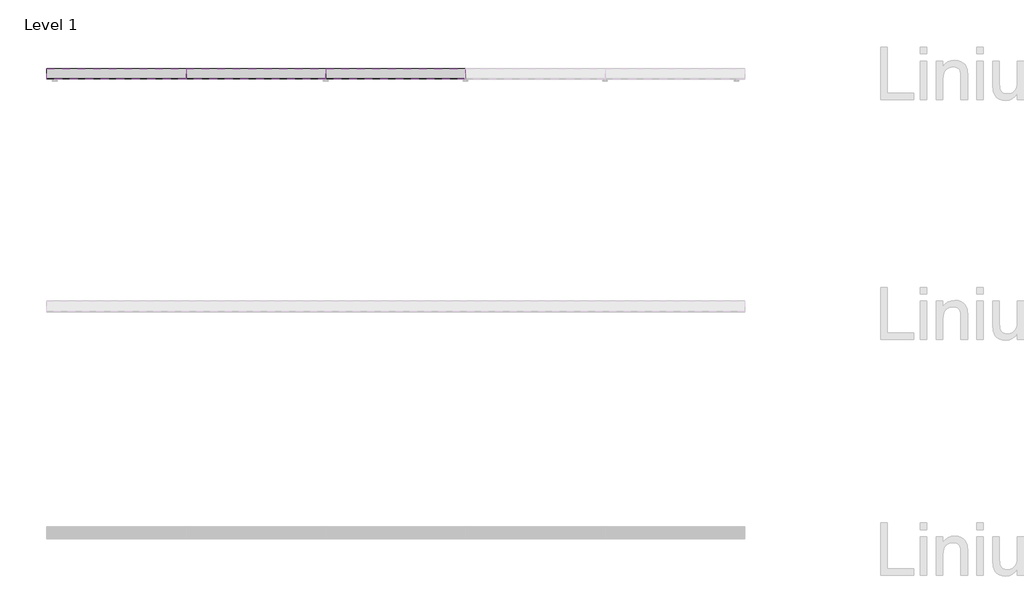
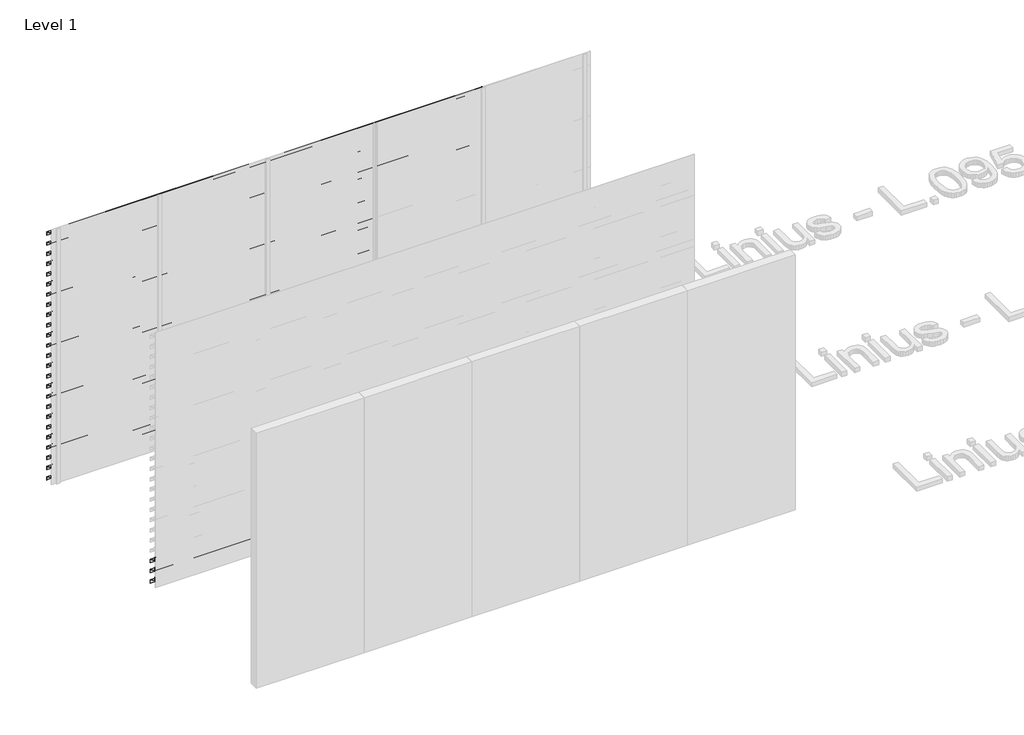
# One storey, part 27 of 46: 85 proxies.
"""IFC4 building model written with IfcOpenShell, lengths in millimetres."""

import ifcopenshell
import ifcopenshell.guid

model = None  # the IFC model being written
_history = None  # IfcOwnerHistory: only IFC2X3 demands one
_inside = {}  # id of a spatial element -> (the spatial element, [elements in it])
_under = {}  # id of a project, library or spatial element -> (it, [spatial elements below it])
_declared = {}  # id of a project -> (the project, [libraries it declares])
_typed = {}  # id of a type object -> (the type object, [elements of that type])
_made_of = {}  # id of a material, layer set ... -> (it, [elements and type objects made of it])


def new_model(schema):
    """Start an empty IFC model of exactly this schema.

    Asked for "IFC4X3", IfcOpenShell would pick the latest addendum, in which some entities
    have other attributes; the version numbers below select the first issue.
    IFC2X3 requires an IfcOwnerHistory on every rooted entity: one is made here for all.
    """
    global model, _history
    if schema == "IFC4X3":
        model = ifcopenshell.file(schema_version=(4, 3, 0, 0))
    else:
        model = ifcopenshell.file(schema=schema)
    _inside.clear()
    _under.clear()
    _declared.clear()
    _typed.clear()
    _made_of.clear()
    _history = None
    if model.schema == "IFC2X3":
        org = make("IfcOrganization", Name="unknown")
        user = make(
            "IfcPersonAndOrganization",
            ThePerson=make("IfcPerson", FamilyName="unknown"),
            TheOrganization=org,
        )
        app = make(
            "IfcApplication",
            ApplicationDeveloper=org,
            Version="unknown",
            ApplicationFullName="unknown",
            ApplicationIdentifier="unknown",
        )
        _history = make(
            "IfcOwnerHistory",
            OwningUser=user,
            OwningApplication=app,
            ChangeAction="ADDED",
            CreationDate=0,
        )
    return model


def make(cls, **values):
    """One entity of the class cls with the attributes given. An attribute that is None is left unset."""
    return model.create_entity(
        cls, **{name: value for name, value in values.items() if value is not None}
    )


def rooted(cls, **values):
    """An entity with a GlobalId (a new one), such as an element, a storey or a relation."""
    return make(cls, GlobalId=ifcopenshell.guid.new(), OwnerHistory=_history, **values)


def si_unit(unit_type, name, prefix=None):
    """IfcSIUnit, for example si_unit("LENGTHUNIT", "METRE", prefix="MILLI")."""
    return make("IfcSIUnit", UnitType=unit_type, Prefix=prefix, Name=name)


def assignment(units):
    """IfcUnitAssignment: the units of a project."""
    return None if units is None else make("IfcUnitAssignment", Units=units)


def point(xyz):
    """IfcCartesianPoint."""
    return None if xyz is None else make("IfcCartesianPoint", Coordinates=xyz)


def direction(xyz):
    """IfcDirection."""
    return None if xyz is None else make("IfcDirection", DirectionRatios=xyz)


def frame(location, z_axis=None, x_axis=None):
    """IfcAxis2Placement3D, a coordinate frame: its origin and axes. An axis left out is left unset."""
    return make(
        "IfcAxis2Placement3D",
        Location=point(location),
        Axis=direction(z_axis),
        RefDirection=direction(x_axis),
    )


def origin():
    """The frame at (0, 0, 0) with its axes left unset."""
    return frame((0.0, 0.0, 0.0))


def place(relative_to, where):
    """IfcLocalPlacement: puts the frame where relative to a parent placement (None: the world)."""
    return make(
        "IfcLocalPlacement", PlacementRelTo=relative_to, RelativePlacement=where
    )


def context(
    kind, dimensions, precision=None, world=None, true_north=None, identifier=None
):
    """IfcGeometricRepresentationContext, for example the 3D "Model" context."""
    return make(
        "IfcGeometricRepresentationContext",
        ContextIdentifier=identifier,
        ContextType=kind,
        CoordinateSpaceDimension=dimensions,
        Precision=precision,
        WorldCoordinateSystem=world,
        TrueNorth=true_north,
    )


def project(units=None, contexts=None):
    """IfcProject with its units and contexts."""
    return rooted(
        "IfcProject",
        Name="project",
        RepresentationContexts=contexts,
        UnitsInContext=assignment(units),
    )


def spatial(cls, under=None, at=None, **own):
    """A site, building, storey or space (cls), placed at a placement, below another one or the project."""
    s = rooted(cls, ObjectPlacement=at, **own)
    if under is not None:
        _under.setdefault(under.id(), (under, []))[1].append(s)
    return s


def polyline(points):
    """IfcPolyline through the points."""
    return make("IfcPolyline", Points=[point(p) for p in points])


def outline(outer, holes=None, kind="AREA"):
    """IfcArbitraryClosedProfileDef: a profile drawn as a closed curve; with holes, ...WithVoids."""
    if holes is None:
        return make("IfcArbitraryClosedProfileDef", ProfileType=kind, OuterCurve=outer)
    return make(
        "IfcArbitraryProfileDefWithVoids",
        ProfileType=kind,
        OuterCurve=outer,
        InnerCurves=holes,
    )


def extrude(swept, where, along, depth):
    """IfcExtrudedAreaSolid: the profile swept, set in the frame where, extruded along a direction by depth."""
    return make(
        "IfcExtrudedAreaSolid",
        SweptArea=swept,
        Position=where,
        ExtrudedDirection=direction(along),
        Depth=depth,
    )


def shape(context_of_items, identifier, shape_type, items):
    """IfcShapeRepresentation: the items that make up one representation, for example the "Body"."""
    return make(
        "IfcShapeRepresentation",
        ContextOfItems=context_of_items,
        RepresentationIdentifier=identifier,
        RepresentationType=shape_type,
        Items=items,
    )


def made_of(thing, what):
    """Note that an element or type object is made of a material, layer set ...; save() writes the relation."""
    if what is not None:
        _made_of.setdefault(what.id(), (what, []))[1].append(thing)
    return thing


def element(
    cls,
    number,
    at=None,
    inside=None,
    cuts=None,
    type_object=None,
    material=None,
    context=None,
    identifier="Body",
    shape_type=None,
    held_by="IfcProductDefinitionShape",
    body=None,
    shapes=None,
    **own,
):
    """One element of the class cls, such as IfcWall. Its Tag is "e" and its number.

    at: its placement. inside: the storey or other place that contains it. cuts: it is an
    opening in that element (IfcRelVoidsElement). A single representation is given by context,
    identifier, shape_type and body (its items); several are given by shapes. held_by: the class
    of the entity that holds the representations. save() writes the other relations.
    """
    e = rooted(cls, Tag="e%d" % number, ObjectPlacement=at, **own)
    if body is not None:
        shapes = [shape(context, identifier, shape_type, body)]
    if shapes is not None:
        e.Representation = make(held_by, Representations=shapes)
    if inside is not None:
        _inside.setdefault(inside.id(), (inside, []))[1].append(e)
    if cuts is not None:
        rooted(
            "IfcRelVoidsElement", RelatingBuildingElement=cuts, RelatedOpeningElement=e
        )
    if type_object is not None:
        _typed.setdefault(type_object.id(), (type_object, []))[1].append(e)
    return made_of(e, material)


def aggregate(whole, parts):
    """IfcRelAggregates: a whole, such as a stair, and the parts it consists of."""
    return rooted("IfcRelAggregates", RelatingObject=whole, RelatedObjects=parts)


def save(model, path):
    """Write the relations noted so far, then the file.

    IfcRelAggregates (storeys below a building ...), IfcRelContainedInSpatialStructure (elements
    in a storey), IfcRelDefinesByType, IfcRelAssociatesMaterial and IfcRelDeclares: one each for
    every whole, place, type object, material and project.
    """
    for whole, parts in _under.values():
        aggregate(whole, parts)
    for where, things in _inside.values():
        rooted(
            "IfcRelContainedInSpatialStructure",
            RelatedElements=things,
            RelatingStructure=where,
        )
    for kind, things in _typed.values():
        rooted("IfcRelDefinesByType", RelatedObjects=things, RelatingType=kind)
    for what, things in _made_of.values():
        rooted("IfcRelAssociatesMaterial", RelatedObjects=things, RelatingMaterial=what)
    for by, libraries in _declared.values():
        rooted("IfcRelDeclares", RelatingContext=by, RelatedDefinitions=libraries)
    model.write(path)


model = new_model("IFC4")

# Units and contexts
model_context = context("Model", 3, world=origin())
ifc_project = project(units=[si_unit("LENGTHUNIT", "METRE", prefix="MILLI")], contexts=[model_context])

# Site, building, storey
site = spatial("IfcSite", under=ifc_project)
building = spatial("IfcBuilding", under=site)
storey = spatial("IfcBuildingStorey", under=building, Name="Level 1", Elevation=0.0)

# Proxies
placement = place(None, origin())
element("IfcBuildingElementProxy", 1, Name="Wall Sweeps", at=placement, inside=storey, context=model_context, shape_type="SweptSolid", body=[
    extrude(outline(polyline([(44073.0540136, 2920.0), (44073.0540136, 2880.0), (44071.0540136, 2881.349017), (44071.0540136, 2918.7258595), (43983.0540136, 2959.7609334), (43983.0540136, 3000.0), (43985.0540136, 3000.0), (43985.0540136, 2961.0350739), (44073.0540136, 2920.0)])), frame((466.6208097, 0.0, 0.0), z_axis=(1.0, 0.0, 0.0), x_axis=(0.0, 1.0, 0.0)), (0.0, 0.0, 1.0), 1200.0000002),
])
element("IfcBuildingElementProxy", 2, Name="Wall Sweeps", at=placement, inside=storey, context=model_context, shape_type="SweptSolid", body=[
    extrude(outline(polyline([(44073.0540136, 2800.0), (44073.0540136, 2760.0), (44071.0540136, 2761.349017), (44071.0540136, 2798.7258595), (43983.0540136, 2839.7609334), (43983.0540136, 2880.0), (43985.0540136, 2880.0), (43985.0540136, 2841.0350739), (44073.0540136, 2800.0)])), frame((466.6208097, 0.0, 0.0), z_axis=(1.0, 0.0, 0.0), x_axis=(0.0, 1.0, 0.0)), (0.0, 0.0, 1.0), 1200.0000002),
])
element("IfcBuildingElementProxy", 3, Name="Wall Sweeps", at=placement, inside=storey, context=model_context, shape_type="SweptSolid", body=[
    extrude(outline(polyline([(44073.0540136, 2680.0), (44073.0540136, 2640.0), (44071.0540136, 2641.349017), (44071.0540136, 2678.7258595), (43983.0540136, 2719.7609334), (43983.0540136, 2760.0), (43985.0540136, 2760.0), (43985.0540136, 2721.0350739), (44073.0540136, 2680.0)])), frame((466.6208097, 0.0, 0.0), z_axis=(1.0, 0.0, 0.0), x_axis=(0.0, 1.0, 0.0)), (0.0, 0.0, 1.0), 1200.0000002),
])
element("IfcBuildingElementProxy", 4, Name="Wall Sweeps", at=placement, inside=storey, context=model_context, shape_type="SweptSolid", body=[
    extrude(outline(polyline([(44073.0540136, 2560.0), (44073.0540136, 2520.0), (44071.0540136, 2521.349017), (44071.0540136, 2558.7258595), (43983.0540136, 2599.7609334), (43983.0540136, 2640.0), (43985.0540136, 2640.0), (43985.0540136, 2601.0350739), (44073.0540136, 2560.0)])), frame((466.6208097, 0.0, 0.0), z_axis=(1.0, 0.0, 0.0), x_axis=(0.0, 1.0, 0.0)), (0.0, 0.0, 1.0), 1200.0000002),
])
element("IfcBuildingElementProxy", 5, Name="Wall Sweeps", at=placement, inside=storey, context=model_context, shape_type="SweptSolid", body=[
    extrude(outline(polyline([(44073.0540136, 2440.0), (44073.0540136, 2400.0), (44071.0540136, 2401.349017), (44071.0540136, 2438.7258595), (43983.0540136, 2479.7609334), (43983.0540136, 2520.0), (43985.0540136, 2520.0), (43985.0540136, 2481.0350739), (44073.0540136, 2440.0)])), frame((466.6208097, 0.0, 0.0), z_axis=(1.0, 0.0, 0.0), x_axis=(0.0, 1.0, 0.0)), (0.0, 0.0, 1.0), 1200.0000002),
])
element("IfcBuildingElementProxy", 6, Name="Wall Sweeps", at=placement, inside=storey, context=model_context, shape_type="SweptSolid", body=[
    extrude(outline(polyline([(44073.0540136, 2320.0), (44073.0540136, 2280.0), (44071.0540136, 2281.349017), (44071.0540136, 2318.7258595), (43983.0540136, 2359.7609334), (43983.0540136, 2400.0), (43985.0540136, 2400.0), (43985.0540136, 2361.0350739), (44073.0540136, 2320.0)])), frame((466.6208097, 0.0, 0.0), z_axis=(1.0, 0.0, 0.0), x_axis=(0.0, 1.0, 0.0)), (0.0, 0.0, 1.0), 1200.0000002),
])
element("IfcBuildingElementProxy", 7, Name="Wall Sweeps", at=placement, inside=storey, context=model_context, shape_type="SweptSolid", body=[
    extrude(outline(polyline([(44073.0540136, 2200.0), (44073.0540136, 2160.0), (44071.0540136, 2161.349017), (44071.0540136, 2198.7258595), (43983.0540136, 2239.7609334), (43983.0540136, 2280.0), (43985.0540136, 2280.0), (43985.0540136, 2241.0350739), (44073.0540136, 2200.0)])), frame((466.6208097, 0.0, 0.0), z_axis=(1.0, 0.0, 0.0), x_axis=(0.0, 1.0, 0.0)), (0.0, 0.0, 1.0), 1200.0000002),
])
element("IfcBuildingElementProxy", 8, Name="Wall Sweeps", at=placement, inside=storey, context=model_context, shape_type="SweptSolid", body=[
    extrude(outline(polyline([(44073.0540136, 2080.0), (44073.0540136, 2040.0), (44071.0540136, 2041.349017), (44071.0540136, 2078.7258595), (43983.0540136, 2119.7609334), (43983.0540136, 2160.0), (43985.0540136, 2160.0), (43985.0540136, 2121.0350739), (44073.0540136, 2080.0)])), frame((466.6208097, 0.0, 0.0), z_axis=(1.0, 0.0, 0.0), x_axis=(0.0, 1.0, 0.0)), (0.0, 0.0, 1.0), 1200.0000002),
])
element("IfcBuildingElementProxy", 9, Name="Wall Sweeps", at=placement, inside=storey, context=model_context, shape_type="SweptSolid", body=[
    extrude(outline(polyline([(44073.0540136, 1960.0), (44073.0540136, 1920.0), (44071.0540136, 1921.349017), (44071.0540136, 1958.7258595), (43983.0540136, 1999.7609334), (43983.0540136, 2040.0), (43985.0540136, 2040.0), (43985.0540136, 2001.0350739), (44073.0540136, 1960.0)])), frame((466.6208097, 0.0, 0.0), z_axis=(1.0, 0.0, 0.0), x_axis=(0.0, 1.0, 0.0)), (0.0, 0.0, 1.0), 1200.0000002),
])
element("IfcBuildingElementProxy", 10, Name="Wall Sweeps", at=placement, inside=storey, context=model_context, shape_type="SweptSolid", body=[
    extrude(outline(polyline([(44073.0540136, 1840.0), (44073.0540136, 1800.0), (44071.0540136, 1801.349017), (44071.0540136, 1838.7258595), (43983.0540136, 1879.7609334), (43983.0540136, 1920.0), (43985.0540136, 1920.0), (43985.0540136, 1881.0350739), (44073.0540136, 1840.0)])), frame((466.6208097, 0.0, 0.0), z_axis=(1.0, 0.0, 0.0), x_axis=(0.0, 1.0, 0.0)), (0.0, 0.0, 1.0), 1200.0000002),
])
element("IfcBuildingElementProxy", 11, Name="Wall Sweeps", at=placement, inside=storey, context=model_context, shape_type="SweptSolid", body=[
    extrude(outline(polyline([(44073.0540136, 1720.0), (44073.0540136, 1680.0), (44071.0540136, 1681.349017), (44071.0540136, 1718.7258595), (43983.0540136, 1759.7609334), (43983.0540136, 1800.0), (43985.0540136, 1800.0), (43985.0540136, 1761.0350739), (44073.0540136, 1720.0)])), frame((466.6208097, 0.0, 0.0), z_axis=(1.0, 0.0, 0.0), x_axis=(0.0, 1.0, 0.0)), (0.0, 0.0, 1.0), 1200.0000002),
])
element("IfcBuildingElementProxy", 12, Name="Wall Sweeps", at=placement, inside=storey, context=model_context, shape_type="SweptSolid", body=[
    extrude(outline(polyline([(44073.0540136, 1600.0), (44073.0540136, 1560.0), (44071.0540136, 1561.349017), (44071.0540136, 1598.7258595), (43983.0540136, 1639.7609334), (43983.0540136, 1680.0), (43985.0540136, 1680.0), (43985.0540136, 1641.0350739), (44073.0540136, 1600.0)])), frame((466.6208097, 0.0, 0.0), z_axis=(1.0, 0.0, 0.0), x_axis=(0.0, 1.0, 0.0)), (0.0, 0.0, 1.0), 1200.0000002),
])
element("IfcBuildingElementProxy", 13, Name="Wall Sweeps", at=placement, inside=storey, context=model_context, shape_type="SweptSolid", body=[
    extrude(outline(polyline([(44073.0540136, 1480.0), (44073.0540136, 1440.0), (44071.0540136, 1441.349017), (44071.0540136, 1478.7258595), (43983.0540136, 1519.7609334), (43983.0540136, 1560.0), (43985.0540136, 1560.0), (43985.0540136, 1521.0350739), (44073.0540136, 1480.0)])), frame((466.6208097, 0.0, 0.0), z_axis=(1.0, 0.0, 0.0), x_axis=(0.0, 1.0, 0.0)), (0.0, 0.0, 1.0), 1200.0000002),
])
element("IfcBuildingElementProxy", 14, Name="Wall Sweeps", at=placement, inside=storey, context=model_context, shape_type="SweptSolid", body=[
    extrude(outline(polyline([(44073.0540136, 1360.0), (44073.0540136, 1320.0), (44071.0540136, 1321.349017), (44071.0540136, 1358.7258595), (43983.0540136, 1399.7609334), (43983.0540136, 1440.0), (43985.0540136, 1440.0), (43985.0540136, 1401.0350739), (44073.0540136, 1360.0)])), frame((466.6208097, 0.0, 0.0), z_axis=(1.0, 0.0, 0.0), x_axis=(0.0, 1.0, 0.0)), (0.0, 0.0, 1.0), 1200.0000002),
])
element("IfcBuildingElementProxy", 15, Name="Wall Sweeps", at=placement, inside=storey, context=model_context, shape_type="SweptSolid", body=[
    extrude(outline(polyline([(44073.0540136, 1240.0), (44073.0540136, 1200.0), (44071.0540136, 1201.349017), (44071.0540136, 1238.7258595), (43983.0540136, 1279.7609334), (43983.0540136, 1320.0), (43985.0540136, 1320.0), (43985.0540136, 1281.0350739), (44073.0540136, 1240.0)])), frame((466.6208097, 0.0, 0.0), z_axis=(1.0, 0.0, 0.0), x_axis=(0.0, 1.0, 0.0)), (0.0, 0.0, 1.0), 1200.0000002),
])
element("IfcBuildingElementProxy", 16, Name="Wall Sweeps", at=placement, inside=storey, context=model_context, shape_type="SweptSolid", body=[
    extrude(outline(polyline([(44073.0540136, 1120.0), (44073.0540136, 1080.0), (44071.0540136, 1081.349017), (44071.0540136, 1118.7258595), (43983.0540136, 1159.7609334), (43983.0540136, 1200.0), (43985.0540136, 1200.0), (43985.0540136, 1161.0350739), (44073.0540136, 1120.0)])), frame((466.6208097, 0.0, 0.0), z_axis=(1.0, 0.0, 0.0), x_axis=(0.0, 1.0, 0.0)), (0.0, 0.0, 1.0), 1200.0000002),
])
element("IfcBuildingElementProxy", 17, Name="Wall Sweeps", at=placement, inside=storey, context=model_context, shape_type="SweptSolid", body=[
    extrude(outline(polyline([(44073.0540136, 1000.0), (44073.0540136, 960.0), (44071.0540136, 961.349017), (44071.0540136, 998.7258595), (43983.0540136, 1039.7609334), (43983.0540136, 1080.0), (43985.0540136, 1080.0), (43985.0540136, 1041.0350739), (44073.0540136, 1000.0)])), frame((466.6208097, 0.0, 0.0), z_axis=(1.0, 0.0, 0.0), x_axis=(0.0, 1.0, 0.0)), (0.0, 0.0, 1.0), 1200.0000002),
])
element("IfcBuildingElementProxy", 18, Name="Wall Sweeps", at=placement, inside=storey, context=model_context, shape_type="SweptSolid", body=[
    extrude(outline(polyline([(44073.0540136, 880.0), (44073.0540136, 840.0), (44071.0540136, 841.349017), (44071.0540136, 878.7258595), (43983.0540136, 919.7609334), (43983.0540136, 960.0), (43985.0540136, 960.0), (43985.0540136, 921.0350739), (44073.0540136, 880.0)])), frame((466.6208097, 0.0, 0.0), z_axis=(1.0, 0.0, 0.0), x_axis=(0.0, 1.0, 0.0)), (0.0, 0.0, 1.0), 1200.0000002),
])
element("IfcBuildingElementProxy", 19, Name="Wall Sweeps", at=placement, inside=storey, context=model_context, shape_type="SweptSolid", body=[
    extrude(outline(polyline([(44073.0540136, 760.0), (44073.0540136, 720.0), (44071.0540136, 721.349017), (44071.0540136, 758.7258595), (43983.0540136, 799.7609334), (43983.0540136, 840.0), (43985.0540136, 840.0), (43985.0540136, 801.0350739), (44073.0540136, 760.0)])), frame((466.6208097, 0.0, 0.0), z_axis=(1.0, 0.0, 0.0), x_axis=(0.0, 1.0, 0.0)), (0.0, 0.0, 1.0), 1200.0000002),
])
element("IfcBuildingElementProxy", 20, Name="Wall Sweeps", at=placement, inside=storey, context=model_context, shape_type="SweptSolid", body=[
    extrude(outline(polyline([(44073.0540136, 640.0), (44073.0540136, 600.0), (44071.0540136, 601.349017), (44071.0540136, 638.7258595), (43983.0540136, 679.7609334), (43983.0540136, 720.0), (43985.0540136, 720.0), (43985.0540136, 681.0350739), (44073.0540136, 640.0)])), frame((466.6208097, 0.0, 0.0), z_axis=(1.0, 0.0, 0.0), x_axis=(0.0, 1.0, 0.0)), (0.0, 0.0, 1.0), 1200.0000002),
])
element("IfcBuildingElementProxy", 21, Name="Wall Sweeps", at=placement, inside=storey, context=model_context, shape_type="SweptSolid", body=[
    extrude(outline(polyline([(44073.0540136, 520.0), (44073.0540136, 480.0), (44071.0540136, 481.349017), (44071.0540136, 518.7258595), (43983.0540136, 559.7609334), (43983.0540136, 600.0), (43985.0540136, 600.0), (43985.0540136, 561.0350739), (44073.0540136, 520.0)])), frame((466.6208097, 0.0, 0.0), z_axis=(1.0, 0.0, 0.0), x_axis=(0.0, 1.0, 0.0)), (0.0, 0.0, 1.0), 1200.0000002),
])
element("IfcBuildingElementProxy", 22, Name="Wall Sweeps", at=placement, inside=storey, context=model_context, shape_type="SweptSolid", body=[
    extrude(outline(polyline([(44073.0540136, 400.0), (44073.0540136, 360.0), (44071.0540136, 361.349017), (44071.0540136, 398.7258595), (43983.0540136, 439.7609334), (43983.0540136, 480.0), (43985.0540136, 480.0), (43985.0540136, 441.0350739), (44073.0540136, 400.0)])), frame((466.6208097, 0.0, 0.0), z_axis=(1.0, 0.0, 0.0), x_axis=(0.0, 1.0, 0.0)), (0.0, 0.0, 1.0), 1200.0000002),
])
element("IfcBuildingElementProxy", 23, Name="Wall Sweeps", at=placement, inside=storey, context=model_context, shape_type="SweptSolid", body=[
    extrude(outline(polyline([(44073.0540136, 280.0), (44073.0540136, 240.0), (44071.0540136, 241.349017), (44071.0540136, 278.7258595), (43983.0540136, 319.7609334), (43983.0540136, 360.0), (43985.0540136, 360.0), (43985.0540136, 321.0350739), (44073.0540136, 280.0)])), frame((466.6208097, 0.0, 0.0), z_axis=(1.0, 0.0, 0.0), x_axis=(0.0, 1.0, 0.0)), (0.0, 0.0, 1.0), 1200.0000002),
])
element("IfcBuildingElementProxy", 24, Name="Wall Sweeps", at=placement, inside=storey, context=model_context, shape_type="SweptSolid", body=[
    extrude(outline(polyline([(44073.0540136, 160.0), (44073.0540136, 120.0), (44071.0540136, 121.349017), (44071.0540136, 158.7258595), (43983.0540136, 199.7609334), (43983.0540136, 240.0), (43985.0540136, 240.0), (43985.0540136, 201.0350739), (44073.0540136, 160.0)])), frame((466.6208097, 0.0, 0.0), z_axis=(1.0, 0.0, 0.0), x_axis=(0.0, 1.0, 0.0)), (0.0, 0.0, 1.0), 1200.0000002),
])
element("IfcBuildingElementProxy", 25, Name="Wall Sweeps", at=placement, inside=storey, context=model_context, shape_type="SweptSolid", body=[
    extrude(outline(polyline([(44073.0540136, 40.0), (44073.0540136, 0.0), (44071.0540136, 1.349017), (44071.0540136, 38.7258595), (43983.0540136, 79.7609334), (43983.0540136, 120.0), (43985.0540136, 120.0), (43985.0540136, 81.0350739), (44073.0540136, 40.0)])), frame((466.6208097, 0.0, 0.0), z_axis=(1.0, 0.0, 0.0), x_axis=(0.0, 1.0, 0.0)), (0.0, 0.0, 1.0), 1200.0000002),
])
element("IfcBuildingElementProxy", 26, Name="Wall Sweeps", at=placement, inside=storey, context=model_context, shape_type="SweptSolid", body=[
    extrude(outline(polyline([(44073.0540136, 2920.0), (44073.0540136, 2880.0), (44071.0540136, 2881.349017), (44071.0540136, 2918.7258595), (43983.0540136, 2959.7609334), (43983.0540136, 3000.0), (43985.0540136, 3000.0), (43985.0540136, 2961.0350739), (44073.0540136, 2920.0)])), frame((1666.6208099, 0.0, 0.0), z_axis=(1.0, 0.0, 0.0), x_axis=(0.0, 1.0, 0.0)), (0.0, 0.0, 1.0), 1199.9999999),
])
element("IfcBuildingElementProxy", 27, Name="Wall Sweeps", at=placement, inside=storey, context=model_context, shape_type="SweptSolid", body=[
    extrude(outline(polyline([(44073.0540136, 2800.0), (44073.0540136, 2760.0), (44071.0540136, 2761.349017), (44071.0540136, 2798.7258595), (43983.0540136, 2839.7609334), (43983.0540136, 2880.0), (43985.0540136, 2880.0), (43985.0540136, 2841.0350739), (44073.0540136, 2800.0)])), frame((1666.6208099, 0.0, 0.0), z_axis=(1.0, 0.0, 0.0), x_axis=(0.0, 1.0, 0.0)), (0.0, 0.0, 1.0), 1199.9999999),
])
element("IfcBuildingElementProxy", 28, Name="Wall Sweeps", at=placement, inside=storey, context=model_context, shape_type="SweptSolid", body=[
    extrude(outline(polyline([(44073.0540136, 2680.0), (44073.0540136, 2640.0), (44071.0540136, 2641.349017), (44071.0540136, 2678.7258595), (43983.0540136, 2719.7609334), (43983.0540136, 2760.0), (43985.0540136, 2760.0), (43985.0540136, 2721.0350739), (44073.0540136, 2680.0)])), frame((1666.6208099, 0.0, 0.0), z_axis=(1.0, 0.0, 0.0), x_axis=(0.0, 1.0, 0.0)), (0.0, 0.0, 1.0), 1199.9999999),
])
element("IfcBuildingElementProxy", 29, Name="Wall Sweeps", at=placement, inside=storey, context=model_context, shape_type="SweptSolid", body=[
    extrude(outline(polyline([(44073.0540136, 2560.0), (44073.0540136, 2520.0), (44071.0540136, 2521.349017), (44071.0540136, 2558.7258595), (43983.0540136, 2599.7609334), (43983.0540136, 2640.0), (43985.0540136, 2640.0), (43985.0540136, 2601.0350739), (44073.0540136, 2560.0)])), frame((1666.6208099, 0.0, 0.0), z_axis=(1.0, 0.0, 0.0), x_axis=(0.0, 1.0, 0.0)), (0.0, 0.0, 1.0), 1199.9999999),
])
element("IfcBuildingElementProxy", 30, Name="Wall Sweeps", at=placement, inside=storey, context=model_context, shape_type="SweptSolid", body=[
    extrude(outline(polyline([(44073.0540136, 2440.0), (44073.0540136, 2400.0), (44071.0540136, 2401.349017), (44071.0540136, 2438.7258595), (43983.0540136, 2479.7609334), (43983.0540136, 2520.0), (43985.0540136, 2520.0), (43985.0540136, 2481.0350739), (44073.0540136, 2440.0)])), frame((1666.6208099, 0.0, 0.0), z_axis=(1.0, 0.0, 0.0), x_axis=(0.0, 1.0, 0.0)), (0.0, 0.0, 1.0), 1199.9999999),
])
element("IfcBuildingElementProxy", 31, Name="Wall Sweeps", at=placement, inside=storey, context=model_context, shape_type="SweptSolid", body=[
    extrude(outline(polyline([(44073.0540136, 2320.0), (44073.0540136, 2280.0), (44071.0540136, 2281.349017), (44071.0540136, 2318.7258595), (43983.0540136, 2359.7609334), (43983.0540136, 2400.0), (43985.0540136, 2400.0), (43985.0540136, 2361.0350739), (44073.0540136, 2320.0)])), frame((1666.6208099, 0.0, 0.0), z_axis=(1.0, 0.0, 0.0), x_axis=(0.0, 1.0, 0.0)), (0.0, 0.0, 1.0), 1199.9999999),
])
element("IfcBuildingElementProxy", 32, Name="Wall Sweeps", at=placement, inside=storey, context=model_context, shape_type="SweptSolid", body=[
    extrude(outline(polyline([(44073.0540136, 2200.0), (44073.0540136, 2160.0), (44071.0540136, 2161.349017), (44071.0540136, 2198.7258595), (43983.0540136, 2239.7609334), (43983.0540136, 2280.0), (43985.0540136, 2280.0), (43985.0540136, 2241.0350739), (44073.0540136, 2200.0)])), frame((1666.6208099, 0.0, 0.0), z_axis=(1.0, 0.0, 0.0), x_axis=(0.0, 1.0, 0.0)), (0.0, 0.0, 1.0), 1199.9999999),
])
element("IfcBuildingElementProxy", 33, Name="Wall Sweeps", at=placement, inside=storey, context=model_context, shape_type="SweptSolid", body=[
    extrude(outline(polyline([(44073.0540136, 2080.0), (44073.0540136, 2040.0), (44071.0540136, 2041.349017), (44071.0540136, 2078.7258595), (43983.0540136, 2119.7609334), (43983.0540136, 2160.0), (43985.0540136, 2160.0), (43985.0540136, 2121.0350739), (44073.0540136, 2080.0)])), frame((1666.6208099, 0.0, 0.0), z_axis=(1.0, 0.0, 0.0), x_axis=(0.0, 1.0, 0.0)), (0.0, 0.0, 1.0), 1199.9999999),
])
element("IfcBuildingElementProxy", 34, Name="Wall Sweeps", at=placement, inside=storey, context=model_context, shape_type="SweptSolid", body=[
    extrude(outline(polyline([(44073.0540136, 1960.0), (44073.0540136, 1920.0), (44071.0540136, 1921.349017), (44071.0540136, 1958.7258595), (43983.0540136, 1999.7609334), (43983.0540136, 2040.0), (43985.0540136, 2040.0), (43985.0540136, 2001.0350739), (44073.0540136, 1960.0)])), frame((1666.6208099, 0.0, 0.0), z_axis=(1.0, 0.0, 0.0), x_axis=(0.0, 1.0, 0.0)), (0.0, 0.0, 1.0), 1199.9999999),
])
element("IfcBuildingElementProxy", 35, Name="Wall Sweeps", at=placement, inside=storey, context=model_context, shape_type="SweptSolid", body=[
    extrude(outline(polyline([(44073.0540136, 1840.0), (44073.0540136, 1800.0), (44071.0540136, 1801.349017), (44071.0540136, 1838.7258595), (43983.0540136, 1879.7609334), (43983.0540136, 1920.0), (43985.0540136, 1920.0), (43985.0540136, 1881.0350739), (44073.0540136, 1840.0)])), frame((1666.6208099, 0.0, 0.0), z_axis=(1.0, 0.0, 0.0), x_axis=(0.0, 1.0, 0.0)), (0.0, 0.0, 1.0), 1199.9999999),
])
element("IfcBuildingElementProxy", 36, Name="Wall Sweeps", at=placement, inside=storey, context=model_context, shape_type="SweptSolid", body=[
    extrude(outline(polyline([(44073.0540136, 1720.0), (44073.0540136, 1680.0), (44071.0540136, 1681.349017), (44071.0540136, 1718.7258595), (43983.0540136, 1759.7609334), (43983.0540136, 1800.0), (43985.0540136, 1800.0), (43985.0540136, 1761.0350739), (44073.0540136, 1720.0)])), frame((1666.6208099, 0.0, 0.0), z_axis=(1.0, 0.0, 0.0), x_axis=(0.0, 1.0, 0.0)), (0.0, 0.0, 1.0), 1199.9999999),
])
element("IfcBuildingElementProxy", 37, Name="Wall Sweeps", at=placement, inside=storey, context=model_context, shape_type="SweptSolid", body=[
    extrude(outline(polyline([(44073.0540136, 1600.0), (44073.0540136, 1560.0), (44071.0540136, 1561.349017), (44071.0540136, 1598.7258595), (43983.0540136, 1639.7609334), (43983.0540136, 1680.0), (43985.0540136, 1680.0), (43985.0540136, 1641.0350739), (44073.0540136, 1600.0)])), frame((1666.6208099, 0.0, 0.0), z_axis=(1.0, 0.0, 0.0), x_axis=(0.0, 1.0, 0.0)), (0.0, 0.0, 1.0), 1199.9999999),
])
element("IfcBuildingElementProxy", 38, Name="Wall Sweeps", at=placement, inside=storey, context=model_context, shape_type="SweptSolid", body=[
    extrude(outline(polyline([(44073.0540136, 1480.0), (44073.0540136, 1440.0), (44071.0540136, 1441.349017), (44071.0540136, 1478.7258595), (43983.0540136, 1519.7609334), (43983.0540136, 1560.0), (43985.0540136, 1560.0), (43985.0540136, 1521.0350739), (44073.0540136, 1480.0)])), frame((1666.6208099, 0.0, 0.0), z_axis=(1.0, 0.0, 0.0), x_axis=(0.0, 1.0, 0.0)), (0.0, 0.0, 1.0), 1199.9999999),
])
element("IfcBuildingElementProxy", 39, Name="Wall Sweeps", at=placement, inside=storey, context=model_context, shape_type="SweptSolid", body=[
    extrude(outline(polyline([(44073.0540136, 1360.0), (44073.0540136, 1320.0), (44071.0540136, 1321.349017), (44071.0540136, 1358.7258595), (43983.0540136, 1399.7609334), (43983.0540136, 1440.0), (43985.0540136, 1440.0), (43985.0540136, 1401.0350739), (44073.0540136, 1360.0)])), frame((1666.6208099, 0.0, 0.0), z_axis=(1.0, 0.0, 0.0), x_axis=(0.0, 1.0, 0.0)), (0.0, 0.0, 1.0), 1199.9999999),
])
element("IfcBuildingElementProxy", 40, Name="Wall Sweeps", at=placement, inside=storey, context=model_context, shape_type="SweptSolid", body=[
    extrude(outline(polyline([(44073.0540136, 1240.0), (44073.0540136, 1200.0), (44071.0540136, 1201.349017), (44071.0540136, 1238.7258595), (43983.0540136, 1279.7609334), (43983.0540136, 1320.0), (43985.0540136, 1320.0), (43985.0540136, 1281.0350739), (44073.0540136, 1240.0)])), frame((1666.6208099, 0.0, 0.0), z_axis=(1.0, 0.0, 0.0), x_axis=(0.0, 1.0, 0.0)), (0.0, 0.0, 1.0), 1199.9999999),
])
element("IfcBuildingElementProxy", 41, Name="Wall Sweeps", at=placement, inside=storey, context=model_context, shape_type="SweptSolid", body=[
    extrude(outline(polyline([(44073.0540136, 1120.0), (44073.0540136, 1080.0), (44071.0540136, 1081.349017), (44071.0540136, 1118.7258595), (43983.0540136, 1159.7609334), (43983.0540136, 1200.0), (43985.0540136, 1200.0), (43985.0540136, 1161.0350739), (44073.0540136, 1120.0)])), frame((1666.6208099, 0.0, 0.0), z_axis=(1.0, 0.0, 0.0), x_axis=(0.0, 1.0, 0.0)), (0.0, 0.0, 1.0), 1199.9999999),
])
element("IfcBuildingElementProxy", 42, Name="Wall Sweeps", at=placement, inside=storey, context=model_context, shape_type="SweptSolid", body=[
    extrude(outline(polyline([(44073.0540136, 1000.0), (44073.0540136, 960.0), (44071.0540136, 961.349017), (44071.0540136, 998.7258595), (43983.0540136, 1039.7609334), (43983.0540136, 1080.0), (43985.0540136, 1080.0), (43985.0540136, 1041.0350739), (44073.0540136, 1000.0)])), frame((1666.6208099, 0.0, 0.0), z_axis=(1.0, 0.0, 0.0), x_axis=(0.0, 1.0, 0.0)), (0.0, 0.0, 1.0), 1199.9999999),
])
element("IfcBuildingElementProxy", 43, Name="Wall Sweeps", at=placement, inside=storey, context=model_context, shape_type="SweptSolid", body=[
    extrude(outline(polyline([(44073.0540136, 880.0), (44073.0540136, 840.0), (44071.0540136, 841.349017), (44071.0540136, 878.7258595), (43983.0540136, 919.7609334), (43983.0540136, 960.0), (43985.0540136, 960.0), (43985.0540136, 921.0350739), (44073.0540136, 880.0)])), frame((1666.6208099, 0.0, 0.0), z_axis=(1.0, 0.0, 0.0), x_axis=(0.0, 1.0, 0.0)), (0.0, 0.0, 1.0), 1199.9999999),
])
element("IfcBuildingElementProxy", 44, Name="Wall Sweeps", at=placement, inside=storey, context=model_context, shape_type="SweptSolid", body=[
    extrude(outline(polyline([(44073.0540136, 760.0), (44073.0540136, 720.0), (44071.0540136, 721.349017), (44071.0540136, 758.7258595), (43983.0540136, 799.7609334), (43983.0540136, 840.0), (43985.0540136, 840.0), (43985.0540136, 801.0350739), (44073.0540136, 760.0)])), frame((1666.6208099, 0.0, 0.0), z_axis=(1.0, 0.0, 0.0), x_axis=(0.0, 1.0, 0.0)), (0.0, 0.0, 1.0), 1199.9999999),
])
element("IfcBuildingElementProxy", 45, Name="Wall Sweeps", at=placement, inside=storey, context=model_context, shape_type="SweptSolid", body=[
    extrude(outline(polyline([(44073.0540136, 640.0), (44073.0540136, 600.0), (44071.0540136, 601.349017), (44071.0540136, 638.7258595), (43983.0540136, 679.7609334), (43983.0540136, 720.0), (43985.0540136, 720.0), (43985.0540136, 681.0350739), (44073.0540136, 640.0)])), frame((1666.6208099, 0.0, 0.0), z_axis=(1.0, 0.0, 0.0), x_axis=(0.0, 1.0, 0.0)), (0.0, 0.0, 1.0), 1199.9999999),
])
element("IfcBuildingElementProxy", 46, Name="Wall Sweeps", at=placement, inside=storey, context=model_context, shape_type="SweptSolid", body=[
    extrude(outline(polyline([(44073.0540136, 520.0), (44073.0540136, 480.0), (44071.0540136, 481.349017), (44071.0540136, 518.7258595), (43983.0540136, 559.7609334), (43983.0540136, 600.0), (43985.0540136, 600.0), (43985.0540136, 561.0350739), (44073.0540136, 520.0)])), frame((1666.6208099, 0.0, 0.0), z_axis=(1.0, 0.0, 0.0), x_axis=(0.0, 1.0, 0.0)), (0.0, 0.0, 1.0), 1199.9999999),
])
element("IfcBuildingElementProxy", 47, Name="Wall Sweeps", at=placement, inside=storey, context=model_context, shape_type="SweptSolid", body=[
    extrude(outline(polyline([(44073.0540136, 400.0), (44073.0540136, 360.0), (44071.0540136, 361.349017), (44071.0540136, 398.7258595), (43983.0540136, 439.7609334), (43983.0540136, 480.0), (43985.0540136, 480.0), (43985.0540136, 441.0350739), (44073.0540136, 400.0)])), frame((1666.6208099, 0.0, 0.0), z_axis=(1.0, 0.0, 0.0), x_axis=(0.0, 1.0, 0.0)), (0.0, 0.0, 1.0), 1199.9999999),
])
element("IfcBuildingElementProxy", 48, Name="Wall Sweeps", at=placement, inside=storey, context=model_context, shape_type="SweptSolid", body=[
    extrude(outline(polyline([(44073.0540136, 280.0), (44073.0540136, 240.0), (44071.0540136, 241.349017), (44071.0540136, 278.7258595), (43983.0540136, 319.7609334), (43983.0540136, 360.0), (43985.0540136, 360.0), (43985.0540136, 321.0350739), (44073.0540136, 280.0)])), frame((1666.6208099, 0.0, 0.0), z_axis=(1.0, 0.0, 0.0), x_axis=(0.0, 1.0, 0.0)), (0.0, 0.0, 1.0), 1199.9999999),
])
element("IfcBuildingElementProxy", 49, Name="Wall Sweeps", at=placement, inside=storey, context=model_context, shape_type="SweptSolid", body=[
    extrude(outline(polyline([(44073.0540136, 160.0), (44073.0540136, 120.0), (44071.0540136, 121.349017), (44071.0540136, 158.7258595), (43983.0540136, 199.7609334), (43983.0540136, 240.0), (43985.0540136, 240.0), (43985.0540136, 201.0350739), (44073.0540136, 160.0)])), frame((1666.6208099, 0.0, 0.0), z_axis=(1.0, 0.0, 0.0), x_axis=(0.0, 1.0, 0.0)), (0.0, 0.0, 1.0), 1199.9999999),
])
element("IfcBuildingElementProxy", 50, Name="Wall Sweeps", at=placement, inside=storey, context=model_context, shape_type="SweptSolid", body=[
    extrude(outline(polyline([(44073.0540136, 40.0), (44073.0540136, 0.0), (44071.0540136, 1.349017), (44071.0540136, 38.7258595), (43983.0540136, 79.7609334), (43983.0540136, 120.0), (43985.0540136, 120.0), (43985.0540136, 81.0350739), (44073.0540136, 40.0)])), frame((1666.6208099, 0.0, 0.0), z_axis=(1.0, 0.0, 0.0), x_axis=(0.0, 1.0, 0.0)), (0.0, 0.0, 1.0), 1199.9999999),
])
element("IfcBuildingElementProxy", 51, Name="Wall Sweeps", at=placement, inside=storey, context=model_context, shape_type="SweptSolid", body=[
    extrude(outline(polyline([(42073.0540136, 280.0), (42073.0540136, 240.0), (42071.0540136, 241.349017), (42071.0540136, 278.7258595), (41983.0540136, 319.7609334), (41983.0540136, 360.0), (41985.0540136, 360.0), (41985.0540136, 321.0350739), (42073.0540136, 280.0)])), frame((466.6208097, 0.0, 0.0), z_axis=(1.0, 0.0, 0.0), x_axis=(0.0, 1.0, 0.0)), (0.0, 0.0, 1.0), 6000.0),
])
element("IfcBuildingElementProxy", 52, Name="Wall Sweeps", at=placement, inside=storey, context=model_context, shape_type="SweptSolid", body=[
    extrude(outline(polyline([(42073.0540136, 160.0), (42073.0540136, 120.0), (42071.0540136, 121.349017), (42071.0540136, 158.7258595), (41983.0540136, 199.7609334), (41983.0540136, 240.0), (41985.0540136, 240.0), (41985.0540136, 201.0350739), (42073.0540136, 160.0)])), frame((466.6208097, 0.0, 0.0), z_axis=(1.0, 0.0, 0.0), x_axis=(0.0, 1.0, 0.0)), (0.0, 0.0, 1.0), 6000.0),
])
element("IfcBuildingElementProxy", 53, Name="Wall Sweeps", at=placement, inside=storey, context=model_context, shape_type="SweptSolid", body=[
    extrude(outline(polyline([(42073.0540136, 40.0), (42073.0540136, 0.0), (42071.0540136, 1.349017), (42071.0540136, 38.7258595), (41983.0540136, 79.7609334), (41983.0540136, 120.0), (41985.0540136, 120.0), (41985.0540136, 81.0350739), (42073.0540136, 40.0)])), frame((466.6208097, 0.0, 0.0), z_axis=(1.0, 0.0, 0.0), x_axis=(0.0, 1.0, 0.0)), (0.0, 0.0, 1.0), 6000.0),
])
element("IfcBuildingElementProxy", 54, Name="Wall Sweeps", at=placement, inside=storey, context=model_context, shape_type="SweptSolid", body=[
    extrude(outline(polyline([(44073.0540136, 2920.0), (44073.0540136, 2880.0), (44071.0540136, 2881.349017), (44071.0540136, 2918.7258595), (43983.0540136, 2959.7609334), (43983.0540136, 3000.0), (43985.0540136, 3000.0), (43985.0540136, 2961.0350739), (44073.0540136, 2920.0)])), frame((2866.6208097, 0.0, 0.0), z_axis=(1.0, 0.0, 0.0), x_axis=(0.0, 1.0, 0.0)), (0.0, 0.0, 1.0), 1199.9999999),
])
element("IfcBuildingElementProxy", 55, Name="Wall Sweeps", at=placement, inside=storey, context=model_context, shape_type="SweptSolid", body=[
    extrude(outline(polyline([(44073.0540136, 2800.0), (44073.0540136, 2760.0), (44071.0540136, 2761.349017), (44071.0540136, 2798.7258595), (43983.0540136, 2839.7609334), (43983.0540136, 2880.0), (43985.0540136, 2880.0), (43985.0540136, 2841.0350739), (44073.0540136, 2800.0)])), frame((2866.6208097, 0.0, 0.0), z_axis=(1.0, 0.0, 0.0), x_axis=(0.0, 1.0, 0.0)), (0.0, 0.0, 1.0), 1199.9999999),
])
element("IfcBuildingElementProxy", 56, Name="Wall Sweeps", at=placement, inside=storey, context=model_context, shape_type="SweptSolid", body=[
    extrude(outline(polyline([(44073.0540136, 2680.0), (44073.0540136, 2640.0), (44071.0540136, 2641.349017), (44071.0540136, 2678.7258595), (43983.0540136, 2719.7609334), (43983.0540136, 2760.0), (43985.0540136, 2760.0), (43985.0540136, 2721.0350739), (44073.0540136, 2680.0)])), frame((2866.6208097, 0.0, 0.0), z_axis=(1.0, 0.0, 0.0), x_axis=(0.0, 1.0, 0.0)), (0.0, 0.0, 1.0), 1199.9999999),
])
element("IfcBuildingElementProxy", 57, Name="Wall Sweeps", at=placement, inside=storey, context=model_context, shape_type="SweptSolid", body=[
    extrude(outline(polyline([(44073.0540136, 2560.0), (44073.0540136, 2520.0), (44071.0540136, 2521.349017), (44071.0540136, 2558.7258595), (43983.0540136, 2599.7609334), (43983.0540136, 2640.0), (43985.0540136, 2640.0), (43985.0540136, 2601.0350739), (44073.0540136, 2560.0)])), frame((2866.6208097, 0.0, 0.0), z_axis=(1.0, 0.0, 0.0), x_axis=(0.0, 1.0, 0.0)), (0.0, 0.0, 1.0), 1199.9999999),
])
element("IfcBuildingElementProxy", 58, Name="Wall Sweeps", at=placement, inside=storey, context=model_context, shape_type="SweptSolid", body=[
    extrude(outline(polyline([(44073.0540136, 2440.0), (44073.0540136, 2400.0), (44071.0540136, 2401.349017), (44071.0540136, 2438.7258595), (43983.0540136, 2479.7609334), (43983.0540136, 2520.0), (43985.0540136, 2520.0), (43985.0540136, 2481.0350739), (44073.0540136, 2440.0)])), frame((2866.6208097, 0.0, 0.0), z_axis=(1.0, 0.0, 0.0), x_axis=(0.0, 1.0, 0.0)), (0.0, 0.0, 1.0), 1199.9999999),
])
element("IfcBuildingElementProxy", 59, Name="Wall Sweeps", at=placement, inside=storey, context=model_context, shape_type="SweptSolid", body=[
    extrude(outline(polyline([(44073.0540136, 2320.0), (44073.0540136, 2280.0), (44071.0540136, 2281.349017), (44071.0540136, 2318.7258595), (43983.0540136, 2359.7609334), (43983.0540136, 2400.0), (43985.0540136, 2400.0), (43985.0540136, 2361.0350739), (44073.0540136, 2320.0)])), frame((2866.6208097, 0.0, 0.0), z_axis=(1.0, 0.0, 0.0), x_axis=(0.0, 1.0, 0.0)), (0.0, 0.0, 1.0), 1199.9999999),
])
element("IfcBuildingElementProxy", 60, Name="Wall Sweeps", at=placement, inside=storey, context=model_context, shape_type="SweptSolid", body=[
    extrude(outline(polyline([(44073.0540136, 2200.0), (44073.0540136, 2160.0), (44071.0540136, 2161.349017), (44071.0540136, 2198.7258595), (43983.0540136, 2239.7609334), (43983.0540136, 2280.0), (43985.0540136, 2280.0), (43985.0540136, 2241.0350739), (44073.0540136, 2200.0)])), frame((2866.6208097, 0.0, 0.0), z_axis=(1.0, 0.0, 0.0), x_axis=(0.0, 1.0, 0.0)), (0.0, 0.0, 1.0), 1199.9999999),
])
element("IfcBuildingElementProxy", 61, Name="Wall Sweeps", at=placement, inside=storey, context=model_context, shape_type="SweptSolid", body=[
    extrude(outline(polyline([(44073.0540136, 2080.0), (44073.0540136, 2040.0), (44071.0540136, 2041.349017), (44071.0540136, 2078.7258595), (43983.0540136, 2119.7609334), (43983.0540136, 2160.0), (43985.0540136, 2160.0), (43985.0540136, 2121.0350739), (44073.0540136, 2080.0)])), frame((2866.6208097, 0.0, 0.0), z_axis=(1.0, 0.0, 0.0), x_axis=(0.0, 1.0, 0.0)), (0.0, 0.0, 1.0), 1199.9999999),
])
element("IfcBuildingElementProxy", 62, Name="Wall Sweeps", at=placement, inside=storey, context=model_context, shape_type="SweptSolid", body=[
    extrude(outline(polyline([(44073.0540136, 1960.0), (44073.0540136, 1920.0), (44071.0540136, 1921.349017), (44071.0540136, 1958.7258595), (43983.0540136, 1999.7609334), (43983.0540136, 2040.0), (43985.0540136, 2040.0), (43985.0540136, 2001.0350739), (44073.0540136, 1960.0)])), frame((2866.6208097, 0.0, 0.0), z_axis=(1.0, 0.0, 0.0), x_axis=(0.0, 1.0, 0.0)), (0.0, 0.0, 1.0), 1199.9999999),
])
element("IfcBuildingElementProxy", 63, Name="Wall Sweeps", at=placement, inside=storey, context=model_context, shape_type="SweptSolid", body=[
    extrude(outline(polyline([(44073.0540136, 1840.0), (44073.0540136, 1800.0), (44071.0540136, 1801.349017), (44071.0540136, 1838.7258595), (43983.0540136, 1879.7609334), (43983.0540136, 1920.0), (43985.0540136, 1920.0), (43985.0540136, 1881.0350739), (44073.0540136, 1840.0)])), frame((2866.6208097, 0.0, 0.0), z_axis=(1.0, 0.0, 0.0), x_axis=(0.0, 1.0, 0.0)), (0.0, 0.0, 1.0), 1199.9999999),
])
element("IfcBuildingElementProxy", 64, Name="Wall Sweeps", at=placement, inside=storey, context=model_context, shape_type="SweptSolid", body=[
    extrude(outline(polyline([(44073.0540136, 1720.0), (44073.0540136, 1680.0), (44071.0540136, 1681.349017), (44071.0540136, 1718.7258595), (43983.0540136, 1759.7609334), (43983.0540136, 1800.0), (43985.0540136, 1800.0), (43985.0540136, 1761.0350739), (44073.0540136, 1720.0)])), frame((2866.6208097, 0.0, 0.0), z_axis=(1.0, 0.0, 0.0), x_axis=(0.0, 1.0, 0.0)), (0.0, 0.0, 1.0), 1199.9999999),
])
element("IfcBuildingElementProxy", 65, Name="Wall Sweeps", at=placement, inside=storey, context=model_context, shape_type="SweptSolid", body=[
    extrude(outline(polyline([(44073.0540136, 1600.0), (44073.0540136, 1560.0), (44071.0540136, 1561.349017), (44071.0540136, 1598.7258595), (43983.0540136, 1639.7609334), (43983.0540136, 1680.0), (43985.0540136, 1680.0), (43985.0540136, 1641.0350739), (44073.0540136, 1600.0)])), frame((2866.6208097, 0.0, 0.0), z_axis=(1.0, 0.0, 0.0), x_axis=(0.0, 1.0, 0.0)), (0.0, 0.0, 1.0), 1199.9999999),
])
element("IfcBuildingElementProxy", 66, Name="Wall Sweeps", at=placement, inside=storey, context=model_context, shape_type="SweptSolid", body=[
    extrude(outline(polyline([(44073.0540136, 1480.0), (44073.0540136, 1440.0), (44071.0540136, 1441.349017), (44071.0540136, 1478.7258595), (43983.0540136, 1519.7609334), (43983.0540136, 1560.0), (43985.0540136, 1560.0), (43985.0540136, 1521.0350739), (44073.0540136, 1480.0)])), frame((2866.6208097, 0.0, 0.0), z_axis=(1.0, 0.0, 0.0), x_axis=(0.0, 1.0, 0.0)), (0.0, 0.0, 1.0), 1199.9999999),
])
element("IfcBuildingElementProxy", 67, Name="Wall Sweeps", at=placement, inside=storey, context=model_context, shape_type="SweptSolid", body=[
    extrude(outline(polyline([(44073.0540136, 1360.0), (44073.0540136, 1320.0), (44071.0540136, 1321.349017), (44071.0540136, 1358.7258595), (43983.0540136, 1399.7609334), (43983.0540136, 1440.0), (43985.0540136, 1440.0), (43985.0540136, 1401.0350739), (44073.0540136, 1360.0)])), frame((2866.6208097, 0.0, 0.0), z_axis=(1.0, 0.0, 0.0), x_axis=(0.0, 1.0, 0.0)), (0.0, 0.0, 1.0), 1199.9999999),
])
element("IfcBuildingElementProxy", 68, Name="Wall Sweeps", at=placement, inside=storey, context=model_context, shape_type="SweptSolid", body=[
    extrude(outline(polyline([(44073.0540136, 1240.0), (44073.0540136, 1200.0), (44071.0540136, 1201.349017), (44071.0540136, 1238.7258595), (43983.0540136, 1279.7609334), (43983.0540136, 1320.0), (43985.0540136, 1320.0), (43985.0540136, 1281.0350739), (44073.0540136, 1240.0)])), frame((2866.6208097, 0.0, 0.0), z_axis=(1.0, 0.0, 0.0), x_axis=(0.0, 1.0, 0.0)), (0.0, 0.0, 1.0), 1199.9999999),
])
element("IfcBuildingElementProxy", 69, Name="Wall Sweeps", at=placement, inside=storey, context=model_context, shape_type="SweptSolid", body=[
    extrude(outline(polyline([(44073.0540136, 1120.0), (44073.0540136, 1080.0), (44071.0540136, 1081.349017), (44071.0540136, 1118.7258595), (43983.0540136, 1159.7609334), (43983.0540136, 1200.0), (43985.0540136, 1200.0), (43985.0540136, 1161.0350739), (44073.0540136, 1120.0)])), frame((2866.6208097, 0.0, 0.0), z_axis=(1.0, 0.0, 0.0), x_axis=(0.0, 1.0, 0.0)), (0.0, 0.0, 1.0), 1199.9999999),
])
element("IfcBuildingElementProxy", 70, Name="Wall Sweeps", at=placement, inside=storey, context=model_context, shape_type="SweptSolid", body=[
    extrude(outline(polyline([(44073.0540136, 1000.0), (44073.0540136, 960.0), (44071.0540136, 961.349017), (44071.0540136, 998.7258595), (43983.0540136, 1039.7609334), (43983.0540136, 1080.0), (43985.0540136, 1080.0), (43985.0540136, 1041.0350739), (44073.0540136, 1000.0)])), frame((2866.6208097, 0.0, 0.0), z_axis=(1.0, 0.0, 0.0), x_axis=(0.0, 1.0, 0.0)), (0.0, 0.0, 1.0), 1199.9999999),
])
element("IfcBuildingElementProxy", 71, Name="Wall Sweeps", at=placement, inside=storey, context=model_context, shape_type="SweptSolid", body=[
    extrude(outline(polyline([(44073.0540136, 880.0), (44073.0540136, 840.0), (44071.0540136, 841.349017), (44071.0540136, 878.7258595), (43983.0540136, 919.7609334), (43983.0540136, 960.0), (43985.0540136, 960.0), (43985.0540136, 921.0350739), (44073.0540136, 880.0)])), frame((2866.6208097, 0.0, 0.0), z_axis=(1.0, 0.0, 0.0), x_axis=(0.0, 1.0, 0.0)), (0.0, 0.0, 1.0), 1199.9999999),
])
element("IfcBuildingElementProxy", 72, Name="Wall Sweeps", at=placement, inside=storey, context=model_context, shape_type="SweptSolid", body=[
    extrude(outline(polyline([(44073.0540136, 760.0), (44073.0540136, 720.0), (44071.0540136, 721.349017), (44071.0540136, 758.7258595), (43983.0540136, 799.7609334), (43983.0540136, 840.0), (43985.0540136, 840.0), (43985.0540136, 801.0350739), (44073.0540136, 760.0)])), frame((2866.6208097, 0.0, 0.0), z_axis=(1.0, 0.0, 0.0), x_axis=(0.0, 1.0, 0.0)), (0.0, 0.0, 1.0), 1199.9999999),
])
element("IfcBuildingElementProxy", 73, Name="Wall Sweeps", at=placement, inside=storey, context=model_context, shape_type="SweptSolid", body=[
    extrude(outline(polyline([(44073.0540136, 640.0), (44073.0540136, 600.0), (44071.0540136, 601.349017), (44071.0540136, 638.7258595), (43983.0540136, 679.7609334), (43983.0540136, 720.0), (43985.0540136, 720.0), (43985.0540136, 681.0350739), (44073.0540136, 640.0)])), frame((2866.6208097, 0.0, 0.0), z_axis=(1.0, 0.0, 0.0), x_axis=(0.0, 1.0, 0.0)), (0.0, 0.0, 1.0), 1199.9999999),
])
element("IfcBuildingElementProxy", 74, Name="Wall Sweeps", at=placement, inside=storey, context=model_context, shape_type="SweptSolid", body=[
    extrude(outline(polyline([(44073.0540136, 520.0), (44073.0540136, 480.0), (44071.0540136, 481.349017), (44071.0540136, 518.7258595), (43983.0540136, 559.7609334), (43983.0540136, 600.0), (43985.0540136, 600.0), (43985.0540136, 561.0350739), (44073.0540136, 520.0)])), frame((2866.6208097, 0.0, 0.0), z_axis=(1.0, 0.0, 0.0), x_axis=(0.0, 1.0, 0.0)), (0.0, 0.0, 1.0), 1199.9999999),
])
element("IfcBuildingElementProxy", 75, Name="Wall Sweeps", at=placement, inside=storey, context=model_context, shape_type="SweptSolid", body=[
    extrude(outline(polyline([(44073.0540136, 400.0), (44073.0540136, 360.0), (44071.0540136, 361.349017), (44071.0540136, 398.7258595), (43983.0540136, 439.7609334), (43983.0540136, 480.0), (43985.0540136, 480.0), (43985.0540136, 441.0350739), (44073.0540136, 400.0)])), frame((2866.6208097, 0.0, 0.0), z_axis=(1.0, 0.0, 0.0), x_axis=(0.0, 1.0, 0.0)), (0.0, 0.0, 1.0), 1199.9999999),
])
element("IfcBuildingElementProxy", 76, Name="Wall Sweeps", at=placement, inside=storey, context=model_context, shape_type="SweptSolid", body=[
    extrude(outline(polyline([(44073.0540136, 280.0), (44073.0540136, 240.0), (44071.0540136, 241.349017), (44071.0540136, 278.7258595), (43983.0540136, 319.7609334), (43983.0540136, 360.0), (43985.0540136, 360.0), (43985.0540136, 321.0350739), (44073.0540136, 280.0)])), frame((2866.6208097, 0.0, 0.0), z_axis=(1.0, 0.0, 0.0), x_axis=(0.0, 1.0, 0.0)), (0.0, 0.0, 1.0), 1199.9999999),
])
element("IfcBuildingElementProxy", 77, Name="Wall Sweeps", at=placement, inside=storey, context=model_context, shape_type="SweptSolid", body=[
    extrude(outline(polyline([(44073.0540136, 160.0), (44073.0540136, 120.0), (44071.0540136, 121.349017), (44071.0540136, 158.7258595), (43983.0540136, 199.7609334), (43983.0540136, 240.0), (43985.0540136, 240.0), (43985.0540136, 201.0350739), (44073.0540136, 160.0)])), frame((2866.6208097, 0.0, 0.0), z_axis=(1.0, 0.0, 0.0), x_axis=(0.0, 1.0, 0.0)), (0.0, 0.0, 1.0), 1199.9999999),
])
element("IfcBuildingElementProxy", 78, Name="Wall Sweeps", at=placement, inside=storey, context=model_context, shape_type="SweptSolid", body=[
    extrude(outline(polyline([(44073.0540136, 40.0), (44073.0540136, 0.0), (44071.0540136, 1.349017), (44071.0540136, 38.7258595), (43983.0540136, 79.7609334), (43983.0540136, 120.0), (43985.0540136, 120.0), (43985.0540136, 81.0350739), (44073.0540136, 40.0)])), frame((2866.6208097, 0.0, 0.0), z_axis=(1.0, 0.0, 0.0), x_axis=(0.0, 1.0, 0.0)), (0.0, 0.0, 1.0), 1199.9999999),
])
element("IfcBuildingElementProxy", 79, Name="Wall Sweeps", at=placement, inside=storey, context=model_context, shape_type="SweptSolid", body=[
    extrude(outline(polyline([(44073.0540136, 2920.0), (44073.0540136, 2880.0), (44071.0540136, 2881.349017), (44071.0540136, 2918.7258595), (43983.0540136, 2959.7609334), (43983.0540136, 3000.0), (43985.0540136, 3000.0), (43985.0540136, 2961.0350739), (44073.0540136, 2920.0)])), frame((4066.6208096, 0.0, 0.0), z_axis=(1.0, 0.0, 0.0), x_axis=(0.0, 1.0, 0.0)), (0.0, 0.0, 1.0), 1199.9999999),
])
element("IfcBuildingElementProxy", 80, Name="Wall Sweeps", at=placement, inside=storey, context=model_context, shape_type="SweptSolid", body=[
    extrude(outline(polyline([(44073.0540136, 2800.0), (44073.0540136, 2760.0), (44071.0540136, 2761.349017), (44071.0540136, 2798.7258595), (43983.0540136, 2839.7609334), (43983.0540136, 2880.0), (43985.0540136, 2880.0), (43985.0540136, 2841.0350739), (44073.0540136, 2800.0)])), frame((4066.6208096, 0.0, 0.0), z_axis=(1.0, 0.0, 0.0), x_axis=(0.0, 1.0, 0.0)), (0.0, 0.0, 1.0), 1199.9999999),
])
element("IfcBuildingElementProxy", 81, Name="Wall Sweeps", at=placement, inside=storey, context=model_context, shape_type="SweptSolid", body=[
    extrude(outline(polyline([(44073.0540136, 2680.0), (44073.0540136, 2640.0), (44071.0540136, 2641.349017), (44071.0540136, 2678.7258595), (43983.0540136, 2719.7609334), (43983.0540136, 2760.0), (43985.0540136, 2760.0), (43985.0540136, 2721.0350739), (44073.0540136, 2680.0)])), frame((4066.6208096, 0.0, 0.0), z_axis=(1.0, 0.0, 0.0), x_axis=(0.0, 1.0, 0.0)), (0.0, 0.0, 1.0), 1199.9999999),
])
element("IfcBuildingElementProxy", 82, Name="Wall Sweeps", at=placement, inside=storey, context=model_context, shape_type="SweptSolid", body=[
    extrude(outline(polyline([(44073.0540136, 2560.0), (44073.0540136, 2520.0), (44071.0540136, 2521.349017), (44071.0540136, 2558.7258595), (43983.0540136, 2599.7609334), (43983.0540136, 2640.0), (43985.0540136, 2640.0), (43985.0540136, 2601.0350739), (44073.0540136, 2560.0)])), frame((4066.6208096, 0.0, 0.0), z_axis=(1.0, 0.0, 0.0), x_axis=(0.0, 1.0, 0.0)), (0.0, 0.0, 1.0), 1199.9999999),
])
element("IfcBuildingElementProxy", 83, Name="Wall Sweeps", at=placement, inside=storey, context=model_context, shape_type="SweptSolid", body=[
    extrude(outline(polyline([(44073.0540136, 2440.0), (44073.0540136, 2400.0), (44071.0540136, 2401.349017), (44071.0540136, 2438.7258595), (43983.0540136, 2479.7609334), (43983.0540136, 2520.0), (43985.0540136, 2520.0), (43985.0540136, 2481.0350739), (44073.0540136, 2440.0)])), frame((4066.6208096, 0.0, 0.0), z_axis=(1.0, 0.0, 0.0), x_axis=(0.0, 1.0, 0.0)), (0.0, 0.0, 1.0), 1199.9999999),
])
element("IfcBuildingElementProxy", 84, Name="Wall Sweeps", at=placement, inside=storey, context=model_context, shape_type="SweptSolid", body=[
    extrude(outline(polyline([(44073.0540136, 2320.0), (44073.0540136, 2280.0), (44071.0540136, 2281.349017), (44071.0540136, 2318.7258595), (43983.0540136, 2359.7609334), (43983.0540136, 2400.0), (43985.0540136, 2400.0), (43985.0540136, 2361.0350739), (44073.0540136, 2320.0)])), frame((4066.6208096, 0.0, 0.0), z_axis=(1.0, 0.0, 0.0), x_axis=(0.0, 1.0, 0.0)), (0.0, 0.0, 1.0), 1199.9999999),
])
element("IfcBuildingElementProxy", 85, Name="Wall Sweeps", at=placement, inside=storey, context=model_context, shape_type="SweptSolid", body=[
    extrude(outline(polyline([(44073.0540136, 2200.0), (44073.0540136, 2160.0), (44071.0540136, 2161.349017), (44071.0540136, 2198.7258595), (43983.0540136, 2239.7609334), (43983.0540136, 2280.0), (43985.0540136, 2280.0), (43985.0540136, 2241.0350739), (44073.0540136, 2200.0)])), frame((4066.6208096, 0.0, 0.0), z_axis=(1.0, 0.0, 0.0), x_axis=(0.0, 1.0, 0.0)), (0.0, 0.0, 1.0), 1199.9999999),
])

save(model, "model.ifc")
